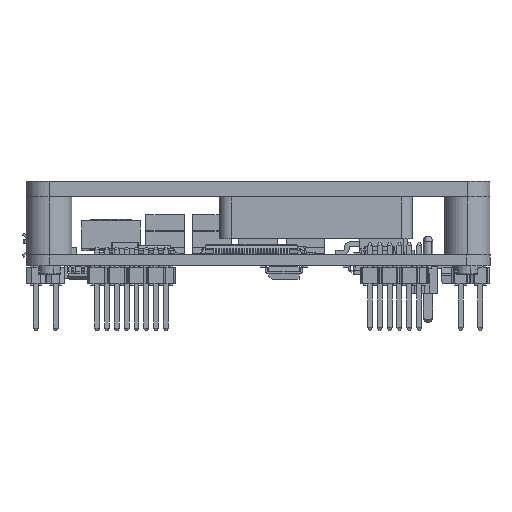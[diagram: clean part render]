
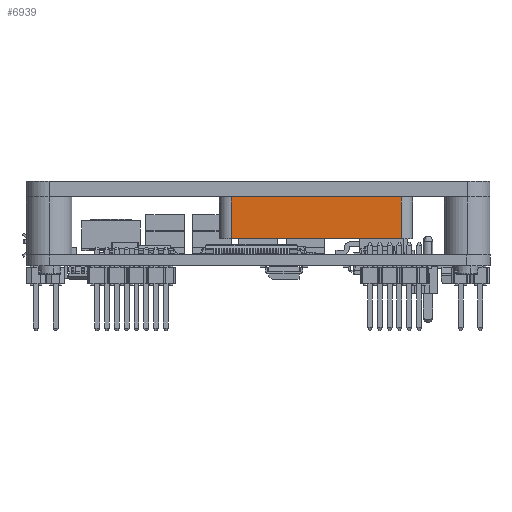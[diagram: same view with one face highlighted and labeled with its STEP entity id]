
A CAD part, front view. The second image highlights one B-rep face of the part: STEP entity #6939.
In plain terms, the highlighted planar face has unit normal (0, -1, 0) as drawn and (0, 0, -1) by its records, which use the part's own axes.
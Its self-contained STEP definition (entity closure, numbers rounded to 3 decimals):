
#4114 = CARTESIAN_POINT ( 'NONE',  ( 20., 44.855, -5. ) ) ;
#6939 = ADVANCED_FACE ( 'NONE', ( #156446 ), #418429, .F. ) ;
#12668 = VERTEX_POINT ( 'NONE', #120545 ) ;
#13219 = LINE ( 'NONE', #297121, #79517 ) ;
#27395 = CARTESIAN_POINT ( 'NONE',  ( 18.5, 7.4, -5. ) ) ;
#31548 = CARTESIAN_POINT ( 'NONE',  ( -3.5, 7.4, -5. ) ) ;
#39650 = DIRECTION ( 'NONE',  ( 0., -1., 0. ) ) ;
#52493 = DIRECTION ( 'NONE',  ( -1., 0., 0. ) ) ;
#79517 = VECTOR ( 'NONE', #39650, 1000. ) ;
#102385 = DIRECTION ( 'NONE',  ( 1., 0., 0. ) ) ;
#120545 = CARTESIAN_POINT ( 'NONE',  ( -3.5, 2., -5. ) ) ;
#129727 = VERTEX_POINT ( 'NONE', #27395 ) ;
#141272 = CARTESIAN_POINT ( 'NONE',  ( 20., 7.4, -5. ) ) ;
#149318 = VECTOR ( 'NONE', #52493, 1000. ) ;
#156446 = FACE_OUTER_BOUND ( 'NONE', #218803, .T. ) ;
#168491 = EDGE_CURVE ( 'NONE', #279934, #12668, #291664, .T. ) ;
#173527 = EDGE_CURVE ( 'NONE', #129727, #279934, #13219, .T. ) ;
#195083 = LINE ( 'NONE', #323619, #215506 ) ;
#215506 = VECTOR ( 'NONE', #296345, 1000. ) ;
#218803 = EDGE_LOOP ( 'NONE', ( #345003, #400522, #365667, #247489 ) ) ;
#226603 = VECTOR ( 'NONE', #400438, 1000. ) ;
#227432 = DIRECTION ( 'NONE',  ( 0., 0., 1. ) ) ;
#247489 = ORIENTED_EDGE ( 'NONE', *, *, #399552, .T. ) ;
#250151 = AXIS2_PLACEMENT_3D ( 'NONE', #4114, #227432, #102385 ) ;
#264148 = CARTESIAN_POINT ( 'NONE',  ( 18.5, 2., -5. ) ) ;
#279934 = VERTEX_POINT ( 'NONE', #264148 ) ;
#291664 = LINE ( 'NONE', #348317, #149318 ) ;
#296345 = DIRECTION ( 'NONE',  ( 0., 1., 0. ) ) ;
#297121 = CARTESIAN_POINT ( 'NONE',  ( 18.5, 44.855, -5. ) ) ;
#323619 = CARTESIAN_POINT ( 'NONE',  ( -3.5, 44.855, -5. ) ) ;
#325727 = EDGE_CURVE ( 'NONE', #346298, #129727, #338647, .T. ) ;
#338647 = LINE ( 'NONE', #141272, #226603 ) ;
#345003 = ORIENTED_EDGE ( 'NONE', *, *, #325727, .T. ) ;
#346298 = VERTEX_POINT ( 'NONE', #31548 ) ;
#348317 = CARTESIAN_POINT ( 'NONE',  ( 20., 2., -5. ) ) ;
#365667 = ORIENTED_EDGE ( 'NONE', *, *, #168491, .T. ) ;
#399552 = EDGE_CURVE ( 'NONE', #12668, #346298, #195083, .T. ) ;
#400438 = DIRECTION ( 'NONE',  ( 1., 0., 0. ) ) ;
#400522 = ORIENTED_EDGE ( 'NONE', *, *, #173527, .T. ) ;
#418429 = PLANE ( 'NONE',  #250151 ) ;
